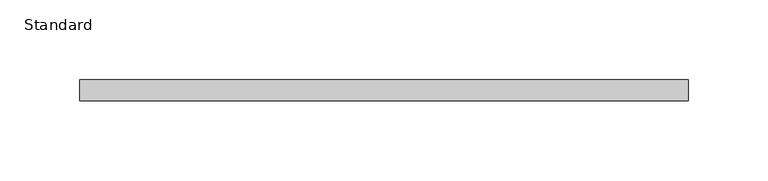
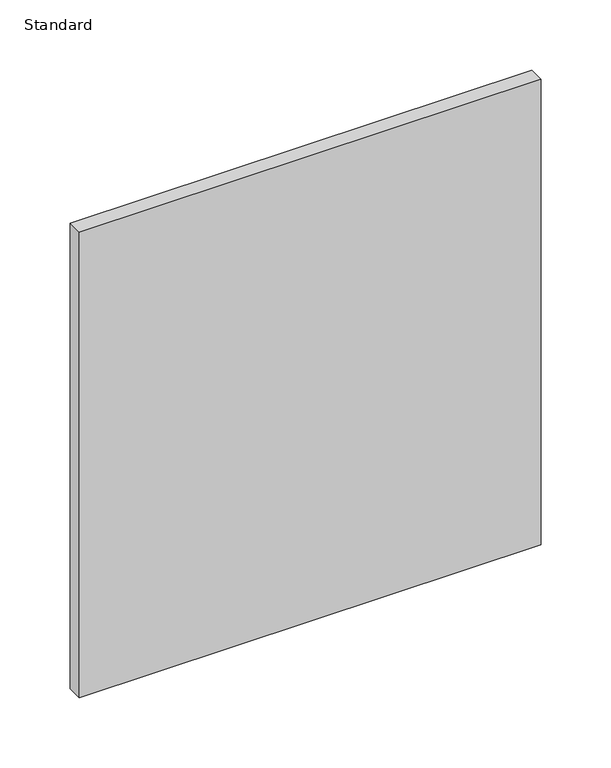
"""IFC4 building model written with IfcOpenShell, lengths in millimetres: furniture geometry, X_Partition-Compact Laminate-Duracube-Cabinet Door : Standard."""

from ifc_helpers import new_model, si_unit, frame, origin, place, context, project, spatial, polyline, outline, extrude, source, transform, mapped, element, save


def standard_ade325fc(model_context):
    return source(origin(), model_context, "Body", "SweptSolid", [
        extrude(outline(polyline([(235.2003264, -13.0), (-145.7996736, -13.0), (-145.7996736, 0.0), (235.2003264, 0.0), (235.2003264, -13.0)])), frame((0.0, 0.0, 3.0), z_axis=(0.0, 0.0, 1.0), x_axis=(1.0, 0.0, 0.0)), (0.0, 0.0, 1.0), 406.0),
    ])


if __name__ == "__main__":
    model = new_model("IFC4")
    model_context = context("Model", 3, world=origin())
    ifc_project = project(units=[si_unit("LENGTHUNIT", "METRE", prefix="MILLI")], contexts=[model_context])
    site = spatial("IfcSite", under=ifc_project)
    building = spatial("IfcBuilding", under=site)
    placement = place(None, origin())
    standard_shape = standard_ade325fc(model_context)
    element("IfcFurniture", 1, ObjectType="X_Partition-Compact Laminate-Duracube-Cabinet Door : Standard", at=placement, inside=building, context=model_context, shape_type="MappedRepresentation", body=[
        mapped(standard_shape, transform((0.0, 0.0, 0.0), x_axis=(1.0, 0.0, 0.0), y_axis=(0.0, 1.0, 0.0), z_axis=(0.0, 0.0, 1.0))),
    ])
    save(model, "model.ifc")
